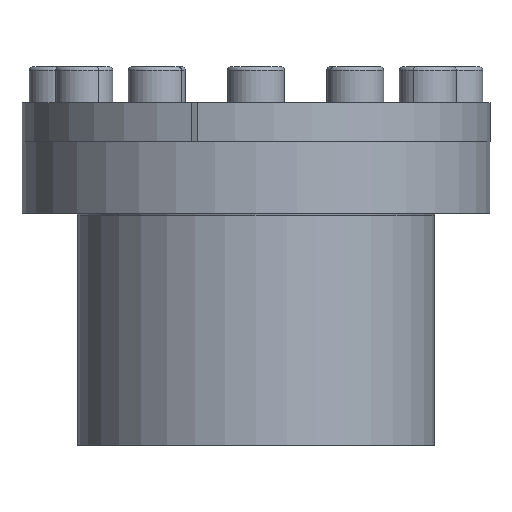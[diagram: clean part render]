
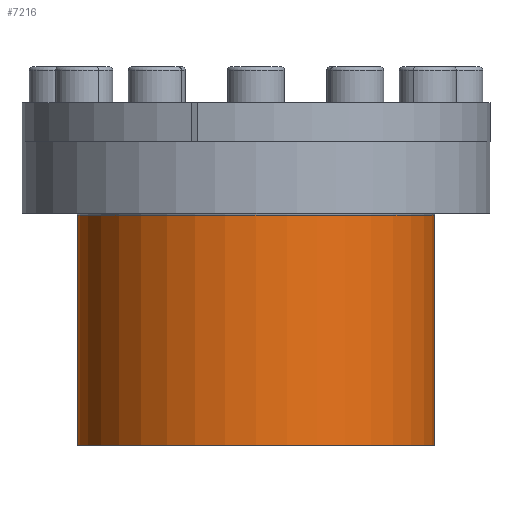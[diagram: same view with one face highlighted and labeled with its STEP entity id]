
A CAD part, front view. The second image highlights one B-rep face of the part: STEP entity #7216.
In plain terms, the highlighted cylindrical face has radius 50 mm (diameter 100 mm), a partial arc.
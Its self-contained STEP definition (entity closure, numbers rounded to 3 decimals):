
#560 = LINE ( 'NONE', #7376, #15121 ) ;
#977 = LINE ( 'NONE', #11528, #15531 ) ;
#1247 = CIRCLE ( 'NONE', #5139, 50. ) ;
#2104 = CARTESIAN_POINT ( 'NONE',  ( 0., 0., -13. ) ) ;
#2159 = DIRECTION ( 'NONE',  ( -1., 0., 0. ) ) ;
#2510 = ORIENTED_EDGE ( 'NONE', *, *, #2545, .F. ) ;
#2545 = EDGE_CURVE ( 'NONE', #15961, #4558, #977, .T. ) ;
#3088 = CIRCLE ( 'NONE', #18300, 50. ) ;
#3263 = FACE_OUTER_BOUND ( 'NONE', #8364, .T. ) ;
#3819 = EDGE_CURVE ( 'NONE', #11887, #10583, #560, .T. ) ;
#4044 = CARTESIAN_POINT ( 'NONE',  ( -50., 0., -13.6 ) ) ;
#4558 = VERTEX_POINT ( 'NONE', #14806 ) ;
#4999 = CARTESIAN_POINT ( 'NONE',  ( 0., 0., -13.6 ) ) ;
#5139 = AXIS2_PLACEMENT_3D ( 'NONE', #16316, #7880, #17750 ) ;
#5237 = CYLINDRICAL_SURFACE ( 'NONE', #8997, 50. ) ;
#6386 = DIRECTION ( 'NONE',  ( -1., 0., 0. ) ) ;
#6632 = EDGE_CURVE ( 'NONE', #15961, #11887, #3088, .T. ) ;
#6845 = ORIENTED_EDGE ( 'NONE', *, *, #6632, .T. ) ;
#7216 = ADVANCED_FACE ( 'NONE', ( #3263 ), #5237, .T. ) ;
#7376 = CARTESIAN_POINT ( 'NONE',  ( -50., 0., -13. ) ) ;
#7880 = DIRECTION ( 'NONE',  ( 0., 0., -1. ) ) ;
#8364 = EDGE_LOOP ( 'NONE', ( #2510, #6845, #13741, #15271 ) ) ;
#8897 = EDGE_CURVE ( 'NONE', #4558, #10583, #1247, .T. ) ;
#8997 = AXIS2_PLACEMENT_3D ( 'NONE', #2104, #17613, #2159 ) ;
#10583 = VERTEX_POINT ( 'NONE', #13971 ) ;
#11528 = CARTESIAN_POINT ( 'NONE',  ( 50., 0., -13. ) ) ;
#11887 = VERTEX_POINT ( 'NONE', #4044 ) ;
#11959 = CARTESIAN_POINT ( 'NONE',  ( 50., 0., -13.6 ) ) ;
#13741 = ORIENTED_EDGE ( 'NONE', *, *, #3819, .T. ) ;
#13971 = CARTESIAN_POINT ( 'NONE',  ( -50., 0., -78. ) ) ;
#14400 = DIRECTION ( 'NONE',  ( 0., 0., -1. ) ) ;
#14806 = CARTESIAN_POINT ( 'NONE',  ( 50., 0., -78. ) ) ;
#14840 = DIRECTION ( 'NONE',  ( 0., 0., -1. ) ) ;
#15121 = VECTOR ( 'NONE', #14400, 1000. ) ;
#15271 = ORIENTED_EDGE ( 'NONE', *, *, #8897, .F. ) ;
#15531 = VECTOR ( 'NONE', #15775, 1000. ) ;
#15775 = DIRECTION ( 'NONE',  ( 0., 0., -1. ) ) ;
#15961 = VERTEX_POINT ( 'NONE', #11959 ) ;
#16316 = CARTESIAN_POINT ( 'NONE',  ( 0., 0., -78. ) ) ;
#17613 = DIRECTION ( 'NONE',  ( 0., 0., -1. ) ) ;
#17750 = DIRECTION ( 'NONE',  ( -1., 0., 0. ) ) ;
#18300 = AXIS2_PLACEMENT_3D ( 'NONE', #4999, #14840, #6386 ) ;
